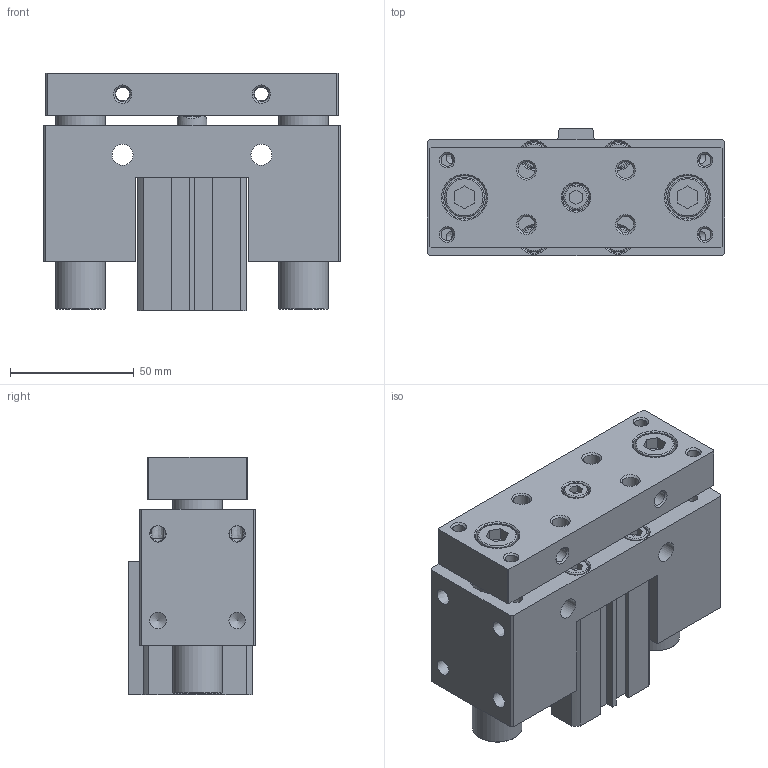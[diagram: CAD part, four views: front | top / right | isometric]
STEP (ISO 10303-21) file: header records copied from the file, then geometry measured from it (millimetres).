
FILE_DESCRIPTION((''),'2;1');
FILE_NAME('I:\3D電子目錄\氣缸\JCB\JCB\JCB32-S\JCB32x20-S.stp','2007-08-21T20:23:02',('Administrator'),(''),'Autodesk Inventor 11','Autodesk Inventor 11','');
FILE_SCHEMA(('AUTOMOTIVE_DESIGN { 1 0 10303 214 1 1 1 1 }'));
Length unit declared in the file: millimetre
Products named in the file (1): JCB32
Bounding box: 120 x 51.5 x 96 mm (x, y, z)
Volume: 391543.6 mm3; surface area: 96184.8 mm2
Topology: 3 solids, 3 shells, 322 faces, 757 edges, 491 vertices
Faces by surface type: plane 174, cylinder 54, bspline 45, cone 41, torus 8
Full cylindrical faces by diameter (mm): 2.2 x2, 5.1 x4, 6 x2, 6.647 x4, 8 x8, 10 x5, 11 x5, 12 x1, 13 x1, 16 x2, 17.5 x2, 20 x2, 22 x1, 23 x3, 34 x4, 36 x2
Entity records: 9312 total; most frequent: CARTESIAN_POINT 2546, DIRECTION 1348, ORIENTED_EDGE 1196, EDGE_CURVE 598, EDGE_LOOP 538, AXIS2_PLACEMENT_3D 496, VERTEX_POINT 460, VECTOR 356
